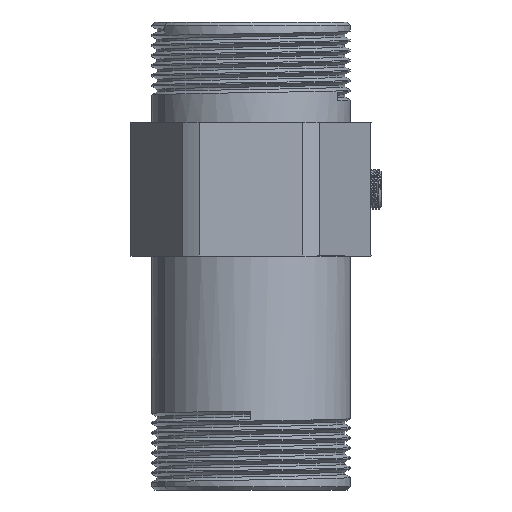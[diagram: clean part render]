
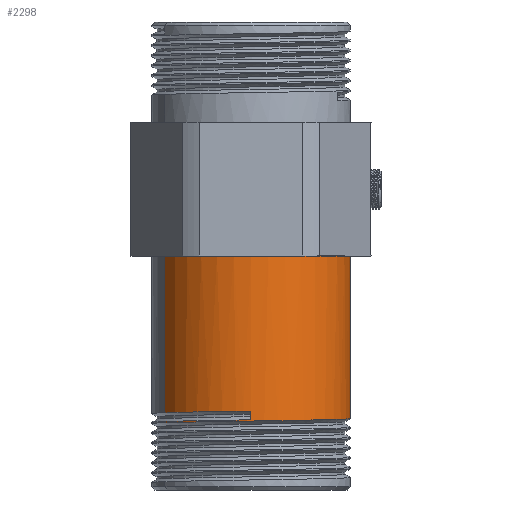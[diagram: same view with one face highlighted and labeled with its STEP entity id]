
A CAD part, front view. The second image highlights one B-rep face of the part: STEP entity #2298.
In plain terms, the highlighted cylindrical face has radius 29.75 mm (diameter 59.5 mm), a partial arc.
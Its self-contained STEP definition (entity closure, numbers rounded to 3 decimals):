
#1151 = VECTOR ( 'NONE', #28658, 1000. ) ;
#2298 = ADVANCED_FACE ( 'NONE', ( #6821 ), #22764, .T. ) ;
#2479 = CARTESIAN_POINT ( 'NONE',  ( -24.068, -17.487, -46.575 ) ) ;
#2819 = CARTESIAN_POINT ( 'NONE',  ( -29.75, -9.666, -46.725 ) ) ;
#3029 = CARTESIAN_POINT ( 'NONE',  ( 29.75, 0., -48.375 ) ) ;
#5794 = CARTESIAN_POINT ( 'NONE',  ( 29.75, -9.666, -48.525 ) ) ;
#6344 = CIRCLE ( 'NONE', #26623, 29.75 ) ;
#6538 = ORIENTED_EDGE ( 'NONE', *, *, #29210, .T. ) ;
#6821 = FACE_OUTER_BOUND ( 'NONE', #9960, .T. ) ;
#6889 = DIRECTION ( 'NONE',  ( 1., 0., 0. ) ) ;
#7674 = LINE ( 'NONE', #18155, #1151 ) ;
#8012 = VERTEX_POINT ( 'NONE', #15352 ) ;
#8135 = EDGE_CURVE ( 'NONE', #20528, #25037, #19915, .T. ) ;
#8162 = CARTESIAN_POINT ( 'NONE',  ( -24.068, -17.487, -49.575 ) ) ;
#8498 = CARTESIAN_POINT ( 'NONE',  ( -9.193, -28.294, -49.275 ) ) ;
#9080 = LINE ( 'NONE', #19567, #9359 ) ;
#9359 = VECTOR ( 'NONE', #27981, 1000. ) ;
#9424 = EDGE_CURVE ( 'NONE', #26667, #30842, #6344, .T. ) ;
#9649 = LINE ( 'NONE', #22559, #20028 ) ;
#9960 = EDGE_LOOP ( 'NONE', ( #25684, #26372, #31856, #28494, #31004, #30711, #6538, #20953 ) ) ;
#10509 = EDGE_CURVE ( 'NONE', #30842, #8012, #9649, .T. ) ;
#11520 = VERTEX_POINT ( 'NONE', #27887 ) ;
#12062 = EDGE_CURVE ( 'NONE', #21010, #21766, #28949, .T. ) ;
#12382 = DIRECTION ( 'NONE',  ( 0., 0., -1. ) ) ;
#13739 = CARTESIAN_POINT ( 'NONE',  ( -14.875, -25.764, -48.999 ) ) ;
#14192 = CARTESIAN_POINT ( 'NONE',  ( 29.75, 0., 0. ) ) ;
#14678 = DIRECTION ( 'NONE',  ( -1., 0., 0. ) ) ;
#15352 = CARTESIAN_POINT ( 'NONE',  ( 29.75, 0., -48.375 ) ) ;
#16235 = CARTESIAN_POINT ( 'NONE',  ( -29.75, 0., -49.875 ) ) ;
#16401 = CARTESIAN_POINT ( 'NONE',  ( 18.387, -25.307, -48.825 ) ) ;
#17191 = CARTESIAN_POINT ( 'NONE',  ( -20.351, -22.602, -49.102 ) ) ;
#18155 = CARTESIAN_POINT ( 'NONE',  ( -29.75, 0., 70. ) ) ;
#19567 = CARTESIAN_POINT ( 'NONE',  ( -29.75, 0., 70. ) ) ;
#19915 =( BOUNDED_CURVE ( )  B_SPLINE_CURVE ( 2, ( #20853, #2819, #2479, #31324, #21539 ),
 .UNSPECIFIED., .F., .F. ) 
 B_SPLINE_CURVE_WITH_KNOTS ( ( 3, 2, 3 ),
 ( 0.929, 0.943, 0.952 ),
 .UNSPECIFIED. ) 
 CURVE ( )  GEOMETRIC_REPRESENTATION_ITEM ( )  RATIONAL_B_SPLINE_CURVE ( ( 1., 0.951, 1., 0.967, 0.978 ) ) 
 REPRESENTATION_ITEM ( '' )  );
#20028 = VECTOR ( 'NONE', #12382, 1000. ) ;
#20528 = VERTEX_POINT ( 'NONE', #25171 ) ;
#20742 = CARTESIAN_POINT ( 'NONE',  ( -14.875, -25.764, 70. ) ) ;
#20853 = CARTESIAN_POINT ( 'NONE',  ( -29.75, 0., -46.875 ) ) ;
#20953 = ORIENTED_EDGE ( 'NONE', *, *, #31849, .T. ) ;
#21010 = VERTEX_POINT ( 'NONE', #28015 ) ;
#21539 = CARTESIAN_POINT ( 'NONE',  ( -14.875, -25.764, -46.374 ) ) ;
#21741 = CARTESIAN_POINT ( 'NONE',  ( -18.387, -25.307, -49.425 ) ) ;
#21766 = VERTEX_POINT ( 'NONE', #13739 ) ;
#22525 = CARTESIAN_POINT ( 'NONE',  ( -29.75, -9.666, -49.35 ) ) ;
#22548 = VECTOR ( 'NONE', #30877, 1000. ) ;
#22559 = CARTESIAN_POINT ( 'NONE',  ( 29.75, 0., 70. ) ) ;
#22764 = CYLINDRICAL_SURFACE ( 'NONE', #28943, 29.75 ) ;
#23660 = LINE ( 'NONE', #20742, #22548 ) ;
#24312 = CARTESIAN_POINT ( 'NONE',  ( -29.75, 0., 0. ) ) ;
#24414 = CARTESIAN_POINT ( 'NONE',  ( -14.875, -25.764, -46.374 ) ) ;
#24491 = CARTESIAN_POINT ( 'NONE',  ( 9.193, -28.294, -48.975 ) ) ;
#25037 = VERTEX_POINT ( 'NONE', #24414 ) ;
#25171 = CARTESIAN_POINT ( 'NONE',  ( -29.75, 0., -46.875 ) ) ;
#25271 =( BOUNDED_CURVE ( )  B_SPLINE_CURVE ( 2, ( #16235, #31702, #8162, #21741, #8498, #31880, #24491, #16401, #29297, #5794, #3029 ),
 .UNSPECIFIED., .F., .F. ) 
 B_SPLINE_CURVE_WITH_KNOTS ( ( 3, 2, 2, 2, 2, 3 ),
 ( 0.786, 0.8, 0.814, 0.829, 0.843, 0.857 ),
 .UNSPECIFIED. ) 
 CURVE ( )  GEOMETRIC_REPRESENTATION_ITEM ( )  RATIONAL_B_SPLINE_CURVE ( ( 1., 0.951, 1., 0.951, 1., 0.951, 1., 0.951, 1., 0.951, 1. ) ) 
 REPRESENTATION_ITEM ( '' )  );
#25684 = ORIENTED_EDGE ( 'NONE', *, *, #10509, .F. ) ;
#26372 = ORIENTED_EDGE ( 'NONE', *, *, #9424, .F. ) ;
#26623 = AXIS2_PLACEMENT_3D ( 'NONE', #30395, #27155, #6889 ) ;
#26667 = VERTEX_POINT ( 'NONE', #24312 ) ;
#27155 = DIRECTION ( 'NONE',  ( 0., 0., 1. ) ) ;
#27887 = CARTESIAN_POINT ( 'NONE',  ( -29.75, 0., -49.875 ) ) ;
#27981 = DIRECTION ( 'NONE',  ( 0., 0., -1. ) ) ;
#28015 = CARTESIAN_POINT ( 'NONE',  ( -29.75, 0., -49.5 ) ) ;
#28017 = CARTESIAN_POINT ( 'NONE',  ( -29.75, 0., -49.5 ) ) ;
#28494 = ORIENTED_EDGE ( 'NONE', *, *, #8135, .T. ) ;
#28658 = DIRECTION ( 'NONE',  ( 0., 0., -1. ) ) ;
#28943 = AXIS2_PLACEMENT_3D ( 'NONE', #32572, #33240, #14678 ) ;
#28949 =( BOUNDED_CURVE ( )  B_SPLINE_CURVE ( 2, ( #28017, #22525, #33004, #17191, #33158 ),
 .UNSPECIFIED., .F., .F. ) 
 B_SPLINE_CURVE_WITH_KNOTS ( ( 3, 2, 3 ),
 ( 0.929, 0.943, 0.952 ),
 .UNSPECIFIED. ) 
 CURVE ( )  GEOMETRIC_REPRESENTATION_ITEM ( )  RATIONAL_B_SPLINE_CURVE ( ( 1., 0.951, 1., 0.967, 0.978 ) ) 
 REPRESENTATION_ITEM ( '' )  );
#29210 = EDGE_CURVE ( 'NONE', #21010, #11520, #9080, .T. ) ;
#29297 = CARTESIAN_POINT ( 'NONE',  ( 24.068, -17.487, -48.675 ) ) ;
#29343 = EDGE_CURVE ( 'NONE', #25037, #21766, #23660, .T. ) ;
#29460 = EDGE_CURVE ( 'NONE', #26667, #20528, #7674, .T. ) ;
#30395 = CARTESIAN_POINT ( 'NONE',  ( 0., 0., 0. ) ) ;
#30711 = ORIENTED_EDGE ( 'NONE', *, *, #12062, .F. ) ;
#30842 = VERTEX_POINT ( 'NONE', #14192 ) ;
#30877 = DIRECTION ( 'NONE',  ( 0., 0., -1. ) ) ;
#31004 = ORIENTED_EDGE ( 'NONE', *, *, #29343, .T. ) ;
#31324 = CARTESIAN_POINT ( 'NONE',  ( -20.351, -22.602, -46.477 ) ) ;
#31702 = CARTESIAN_POINT ( 'NONE',  ( -29.75, -9.666, -49.725 ) ) ;
#31849 = EDGE_CURVE ( 'NONE', #11520, #8012, #25271, .T. ) ;
#31856 = ORIENTED_EDGE ( 'NONE', *, *, #29460, .T. ) ;
#31880 = CARTESIAN_POINT ( 'NONE',  ( 0., -31.281, -49.125 ) ) ;
#32572 = CARTESIAN_POINT ( 'NONE',  ( 0., 0., 70. ) ) ;
#33004 = CARTESIAN_POINT ( 'NONE',  ( -24.068, -17.487, -49.2 ) ) ;
#33158 = CARTESIAN_POINT ( 'NONE',  ( -14.875, -25.764, -48.999 ) ) ;
#33240 = DIRECTION ( 'NONE',  ( 0., 0., -1. ) ) ;
